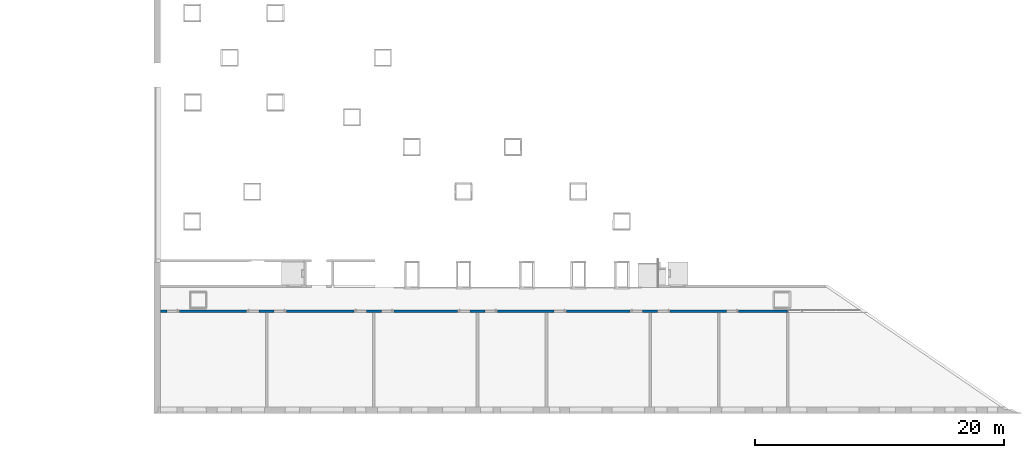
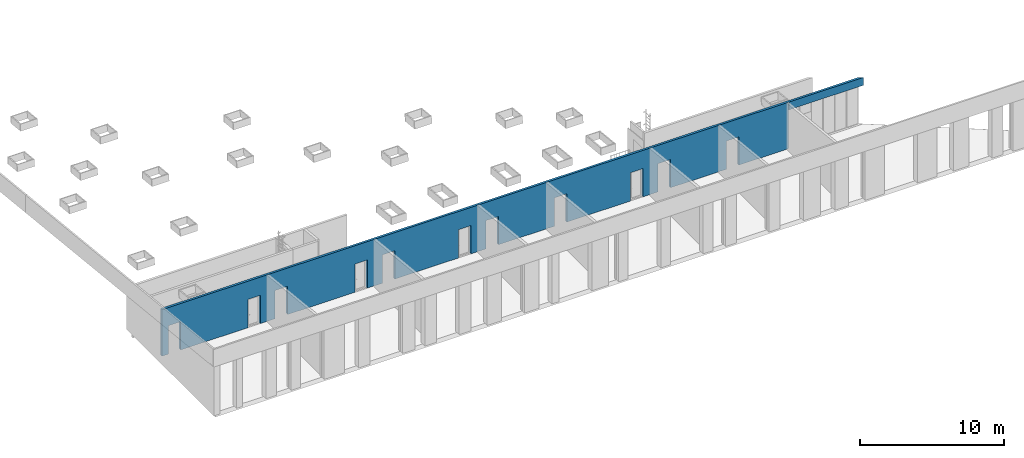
# One storey, part 7 of 23: 1 wall, 12 openings.
"""IFC2X3 building model written with IfcOpenShell, lengths in millimetres."""

import ifcopenshell
import ifcopenshell.guid

model = None  # the IFC model being written
_history = None  # IfcOwnerHistory: only IFC2X3 demands one
_inside = {}  # id of a spatial element -> (the spatial element, [elements in it])
_under = {}  # id of a project, library or spatial element -> (it, [spatial elements below it])
_declared = {}  # id of a project -> (the project, [libraries it declares])
_typed = {}  # id of a type object -> (the type object, [elements of that type])
_made_of = {}  # id of a material, layer set ... -> (it, [elements and type objects made of it])


def new_model(schema):
    """Start an empty IFC model of exactly this schema.

    Asked for "IFC4X3", IfcOpenShell would pick the latest addendum, in which some entities
    have other attributes; the version numbers below select the first issue.
    IFC2X3 requires an IfcOwnerHistory on every rooted entity: one is made here for all.
    """
    global model, _history
    if schema == "IFC4X3":
        model = ifcopenshell.file(schema_version=(4, 3, 0, 0))
    else:
        model = ifcopenshell.file(schema=schema)
    _inside.clear()
    _under.clear()
    _declared.clear()
    _typed.clear()
    _made_of.clear()
    _history = None
    if model.schema == "IFC2X3":
        org = make("IfcOrganization", Name="unknown")
        user = make(
            "IfcPersonAndOrganization",
            ThePerson=make("IfcPerson", FamilyName="unknown"),
            TheOrganization=org,
        )
        app = make(
            "IfcApplication",
            ApplicationDeveloper=org,
            Version="unknown",
            ApplicationFullName="unknown",
            ApplicationIdentifier="unknown",
        )
        _history = make(
            "IfcOwnerHistory",
            OwningUser=user,
            OwningApplication=app,
            ChangeAction="ADDED",
            CreationDate=0,
        )
    return model


def make(cls, **values):
    """One entity of the class cls with the attributes given. An attribute that is None is left unset."""
    return model.create_entity(
        cls, **{name: value for name, value in values.items() if value is not None}
    )


def entity(cls, *values):
    """Any entity or typed value of the class cls, its attributes in the order of the schema. None: left unset."""
    e = model.create_entity(cls)
    for i, value in enumerate(values):
        if value is not None:
            e[i] = value
    return e


def rooted(cls, **values):
    """An entity with a GlobalId (a new one), such as an element, a storey or a relation."""
    return make(cls, GlobalId=ifcopenshell.guid.new(), OwnerHistory=_history, **values)


def si_unit(unit_type, name, prefix=None):
    """IfcSIUnit, for example si_unit("LENGTHUNIT", "METRE", prefix="MILLI")."""
    return make("IfcSIUnit", UnitType=unit_type, Prefix=prefix, Name=name)


def converted_unit(unit_type, name, factor, base, dimensions=None, offset=None):
    """IfcConversionBasedUnit, such as the inch: factor (a typed value) times the base unit."""
    return make(
        "IfcConversionBasedUnit"
        if offset is None
        else "IfcConversionBasedUnitWithOffset",
        ConversionOffset=offset,
        Dimensions=None
        if dimensions is None
        else entity("IfcDimensionalExponents", *dimensions),
        UnitType=unit_type,
        Name=name,
        ConversionFactor=make(
            "IfcMeasureWithUnit", ValueComponent=factor, UnitComponent=base
        ),
    )


def derived_unit(unit_type, elements):
    """IfcDerivedUnit: a product of units, each with its exponent."""
    return make(
        "IfcDerivedUnit",
        Elements=[
            make("IfcDerivedUnitElement", Unit=unit, Exponent=power)
            for unit, power in elements
        ],
        UnitType=unit_type,
    )


def money_unit(currency):
    """IfcMonetaryUnit."""
    return make("IfcMonetaryUnit", Currency=currency)


def assignment(units):
    """IfcUnitAssignment: the units of a project."""
    return None if units is None else make("IfcUnitAssignment", Units=units)


def point(xyz):
    """IfcCartesianPoint."""
    return None if xyz is None else make("IfcCartesianPoint", Coordinates=xyz)


def direction(xyz):
    """IfcDirection."""
    return None if xyz is None else make("IfcDirection", DirectionRatios=xyz)


def frame(location, z_axis=None, x_axis=None):
    """IfcAxis2Placement3D, a coordinate frame: its origin and axes. An axis left out is left unset."""
    return make(
        "IfcAxis2Placement3D",
        Location=point(location),
        Axis=direction(z_axis),
        RefDirection=direction(x_axis),
    )


def origin_with_axes():
    """The frame at (0, 0, 0) with the z axis (0, 0, 1) and the x axis (1, 0, 0) written out."""
    return frame((0.0, 0.0, 0.0), z_axis=(0.0, 0.0, 1.0), x_axis=(1.0, 0.0, 0.0))


def place(relative_to, where):
    """IfcLocalPlacement: puts the frame where relative to a parent placement (None: the world)."""
    return make(
        "IfcLocalPlacement", PlacementRelTo=relative_to, RelativePlacement=where
    )


def context(
    kind, dimensions, precision=None, world=None, true_north=None, identifier=None
):
    """IfcGeometricRepresentationContext, for example the 3D "Model" context."""
    return make(
        "IfcGeometricRepresentationContext",
        ContextIdentifier=identifier,
        ContextType=kind,
        CoordinateSpaceDimension=dimensions,
        Precision=precision,
        WorldCoordinateSystem=world,
        TrueNorth=true_north,
    )


def subcontext(parent, identifier, kind, view, scale=None):
    """IfcGeometricRepresentationSubContext, for example "Body" below "Model"."""
    return make(
        "IfcGeometricRepresentationSubContext",
        ContextIdentifier=identifier,
        ContextType=kind,
        ParentContext=parent,
        TargetScale=scale,
        TargetView=view,
    )


def project(units=None, contexts=None):
    """IfcProject with its units and contexts."""
    return rooted(
        "IfcProject",
        Name="project",
        RepresentationContexts=contexts,
        UnitsInContext=assignment(units),
    )


def spatial(cls, under=None, at=None, **own):
    """A site, building, storey or space (cls), placed at a placement, below another one or the project."""
    s = rooted(cls, ObjectPlacement=at, **own)
    if under is not None:
        _under.setdefault(under.id(), (under, []))[1].append(s)
    return s


def faces_of(points, faces, orient=None, outer=None):
    """IfcFace entities. A face is a list of loops; a loop is a list of indices into points, from 0.

    orient and outer hold one flag for each loop. By default every Orientation is true, the
    first loop of a face is its IfcFaceOuterBound and the others are IfcFaceBound.
    """
    made = []
    for i, loops in enumerate(faces):
        bounds = []
        for j, loop in enumerate(loops):
            is_outer = j == 0 if outer is None else outer[i][j]
            bounds.append(
                make(
                    "IfcFaceOuterBound" if is_outer else "IfcFaceBound",
                    Bound=make("IfcPolyLoop", Polygon=[points[k] for k in loop]),
                    Orientation=True if orient is None else orient[i][j],
                )
            )
        made.append(make("IfcFace", Bounds=bounds))
    return made


def faceted_brep(points, faces, orient=None, outer=None, voids=None):
    """IfcFacetedBrep: a solid bounded by flat faces; with voids (closed shells), ...WithVoids."""
    shared = [point(p) for p in points]
    hull = make("IfcClosedShell", CfsFaces=faces_of(shared, faces, orient, outer))
    if voids is None:
        return make("IfcFacetedBrep", Outer=hull)
    return make(
        "IfcFacetedBrepWithVoids",
        Outer=hull,
        Voids=[
            make(cls, CfsFaces=faces_of(shared, fs, o, b)) for cls, fs, o, b in voids
        ],
    )


def shape(context_of_items, identifier, shape_type, items):
    """IfcShapeRepresentation: the items that make up one representation, for example the "Body"."""
    return make(
        "IfcShapeRepresentation",
        ContextOfItems=context_of_items,
        RepresentationIdentifier=identifier,
        RepresentationType=shape_type,
        Items=items,
    )


def material(Name=None, Category=None):
    """IfcMaterial."""
    return make("IfcMaterial", Name=Name, Category=Category)


def material_list(materials):
    """IfcMaterialList."""
    return make("IfcMaterialList", Materials=materials)


def made_of(thing, what):
    """Note that an element or type object is made of a material, layer set ...; save() writes the relation."""
    if what is not None:
        _made_of.setdefault(what.id(), (what, []))[1].append(thing)
    return thing


def type_object(cls, material=None, **own):
    """A type object (cls), such as IfcWallType, which elements share."""
    return made_of(rooted(cls, **own), material)


def element(
    cls,
    number,
    at=None,
    inside=None,
    cuts=None,
    type_object=None,
    material=None,
    context=None,
    identifier="Body",
    shape_type=None,
    held_by="IfcProductDefinitionShape",
    body=None,
    shapes=None,
    **own,
):
    """One element of the class cls, such as IfcWall. Its Tag is "e" and its number.

    at: its placement. inside: the storey or other place that contains it. cuts: it is an
    opening in that element (IfcRelVoidsElement). A single representation is given by context,
    identifier, shape_type and body (its items); several are given by shapes. held_by: the class
    of the entity that holds the representations. save() writes the other relations.
    """
    e = rooted(cls, Tag="e%d" % number, ObjectPlacement=at, **own)
    if body is not None:
        shapes = [shape(context, identifier, shape_type, body)]
    if shapes is not None:
        e.Representation = make(held_by, Representations=shapes)
    if inside is not None:
        _inside.setdefault(inside.id(), (inside, []))[1].append(e)
    if cuts is not None:
        rooted(
            "IfcRelVoidsElement", RelatingBuildingElement=cuts, RelatedOpeningElement=e
        )
    if type_object is not None:
        _typed.setdefault(type_object.id(), (type_object, []))[1].append(e)
    return made_of(e, material)


def aggregate(whole, parts):
    """IfcRelAggregates: a whole, such as a stair, and the parts it consists of."""
    return rooted("IfcRelAggregates", RelatingObject=whole, RelatedObjects=parts)


def save(model, path):
    """Write the relations noted so far, then the file.

    IfcRelAggregates (storeys below a building ...), IfcRelContainedInSpatialStructure (elements
    in a storey), IfcRelDefinesByType, IfcRelAssociatesMaterial and IfcRelDeclares: one each for
    every whole, place, type object, material and project.
    """
    for whole, parts in _under.values():
        aggregate(whole, parts)
    for where, things in _inside.values():
        rooted(
            "IfcRelContainedInSpatialStructure",
            RelatedElements=things,
            RelatingStructure=where,
        )
    for kind, things in _typed.values():
        rooted("IfcRelDefinesByType", RelatedObjects=things, RelatingType=kind)
    for what, things in _made_of.values():
        rooted("IfcRelAssociatesMaterial", RelatedObjects=things, RelatingMaterial=what)
    for by, libraries in _declared.values():
        rooted("IfcRelDeclares", RelatingContext=by, RelatedDefinitions=libraries)
    model.write(path)


model = new_model("IFC2X3")

# Units and contexts
model_context = context("Model", 3, precision=0.01, world=origin_with_axes(), true_north=direction((0.0, 1.0)))
body_context = subcontext(model_context, "Body", "Model", "MODEL_VIEW")
ifc_project = project(units=[si_unit("LENGTHUNIT", "METRE", prefix="MILLI"), si_unit("AREAUNIT", "SQUARE_METRE"), si_unit("VOLUMEUNIT", "CUBIC_METRE"), converted_unit("PLANEANGLEUNIT", "DEGREE", entity("IfcPlaneAngleMeasure", 0.0174532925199), si_unit("PLANEANGLEUNIT", "RADIAN"), dimensions=[0, 0, 0, 0, 0, 0, 0]), si_unit("SOLIDANGLEUNIT", "STERADIAN"), money_unit("EUR"), converted_unit("TIMEUNIT", "Year", entity("IfcTimeMeasure", 31556926.0), si_unit("TIMEUNIT", "SECOND"), dimensions=[0, 0, 1, 0, 0, 0, 0]), si_unit("MASSUNIT", "GRAM", prefix="KILO"), si_unit("THERMODYNAMICTEMPERATUREUNIT", "DEGREE_CELSIUS"), si_unit("LUMINOUSINTENSITYUNIT", "LUMEN"), si_unit("ENERGYUNIT", "JOULE", prefix="MEGA"), derived_unit("THERMALCONDUCTANCEUNIT", [(si_unit("POWERUNIT", "WATT"), 1), (si_unit("LENGTHUNIT", "METRE"), -1), (si_unit("THERMODYNAMICTEMPERATUREUNIT", "KELVIN"), -1)]), derived_unit("SPECIFICHEATCAPACITYUNIT", [(si_unit("ENERGYUNIT", "JOULE"), 1), (si_unit("MASSUNIT", "GRAM", prefix="KILO"), -1), (si_unit("THERMODYNAMICTEMPERATUREUNIT", "KELVIN"), -1)]), derived_unit("MASSDENSITYUNIT", [(si_unit("MASSUNIT", "GRAM", prefix="KILO"), 1), (si_unit("VOLUMEUNIT", "CUBIC_METRE"), -1)])], contexts=[model_context])

# Site, building, storey
site_placement = place(None, origin_with_axes())
site = spatial("IfcSite", under=ifc_project, at=site_placement, Name="L.Koidula tn 11b", CompositionType="ELEMENT")
building_placement = place(site_placement, origin_with_axes())
building = spatial("IfcBuilding", under=site, at=building_placement, Name="Rakvere Riigigümnaasium", CompositionType="ELEMENT")
storey_placement = place(building_placement, frame((0.0, 0.0, 7440.0), z_axis=(0.0, 0.0, 1.0), x_axis=(1.0, 0.0, 0.0)))
storey = spatial("IfcBuildingStorey", under=building, at=storey_placement, Name="3.korrus +7,44", CompositionType="ELEMENT", Elevation=7440.0)

# Wall, openings
ifc_material_1 = material(Name="siseviimistlus-seinad")
ifc_material_2 = material(Name="Betoon element / plaat")
ifc_material_list = material_list([ifc_material_1, ifc_material_2])
wall_type = type_object("IfcWallType", Name="SS-01-1 210", PredefinedType="NOTDEFINED")
wall_placement = place(storey_placement, frame((91551.1827146, 13280.4543717, 0.0), z_axis=(0.0, 0.0, 1.0), x_axis=(-1.0, 0.0, 0.0)))
wall = element("IfcWall", 1, at=wall_placement, inside=storey, type_object=wall_type, material=ifc_material_list, Name="Sisesein", context=body_context, shape_type="Brep", body=[
    faceted_brep([(56051.1826624, 200.0, 3950.00943243), (47641.1827121, 200.0, 3949.88177236), (47641.1827121, 200.0, 0.0), (48141.1827171, 200.0, 0.0), (48141.1827171, 200.0, 2400.0), (49141.1827171, 200.0, 2400.0), (49141.1827171, 200.0, 0.0), (54551.1827187, 200.0, 0.0), (54551.1827187, 200.0, 2400.0), (55551.1827187, 200.0, 2400.0), (55551.1827187, 200.0, 0.0), (56051.1826624, 200.0, 0.0), (47641.1827121, 210.0, 3950.93281471), (56051.1826624, 210.0, 3951.06047477), (47641.1827121, 210.0, 0.0), (48141.1827171, 210.0, 0.0), (48141.1827171, 210.0, 2400.0), (49141.1827171, 210.0, 2400.0), (49141.1827171, 210.0, 0.0), (54551.1827187, 210.0, 0.0), (54551.1827187, 210.0, 2400.0), (55551.1827187, 210.0, 2400.0), (55551.1827187, 210.0, 0.0), (56051.1826624, 210.0, 0.0)], [[[0, 1, 2, 3, 4, 5, 6, 7, 8, 9, 10, 11]], [[12, 1, 0, 13]], [[1, 12, 14, 2]], [[14, 15, 3, 2]], [[16, 4, 3, 15]], [[17, 5, 4, 16]], [[18, 6, 5, 17]], [[7, 6, 18, 19]], [[8, 7, 19, 20]], [[9, 8, 20, 21]], [[10, 9, 21, 22]], [[10, 22, 23, 11]], [[13, 0, 11, 23]], [[12, 13, 23, 22, 21, 20, 19, 18, 17, 16, 15, 14]]]),
    faceted_brep([(47461.1827121, 200.0, 3949.87904004), (39051.1827174, 200.0, 3949.75137998), (39051.1827174, 200.0, 0.0), (39551.1827168, 200.0, 0.0), (39551.1827168, 200.0, 2400.0), (40551.1827168, 200.0, 2400.0), (40551.1827168, 200.0, 0.0), (45961.1827166, 200.0, 0.0), (45961.1827166, 200.0, 2400.0), (46961.1827166, 200.0, 2400.0), (46961.1827166, 200.0, 0.0), (47461.1827121, 200.0, 0.0), (39051.1827174, 210.0, 3950.80242232), (47461.1827121, 210.0, 3950.93008239), (39051.1827174, 210.0, 0.0), (39551.1827168, 210.0, 0.0), (39551.1827168, 210.0, 2400.0), (40551.1827168, 210.0, 2400.0), (40551.1827168, 210.0, 0.0), (45961.1827166, 210.0, 0.0), (45961.1827166, 210.0, 2400.0), (46961.1827166, 210.0, 2400.0), (46961.1827166, 210.0, 0.0), (47461.1827121, 210.0, 0.0)], [[[0, 1, 2, 3, 4, 5, 6, 7, 8, 9, 10, 11]], [[12, 1, 0, 13]], [[1, 12, 14, 2]], [[15, 3, 2, 14]], [[4, 3, 15, 16]], [[5, 4, 16, 17]], [[6, 5, 17, 18]], [[18, 19, 7, 6]], [[20, 8, 7, 19]], [[21, 9, 8, 20]], [[22, 10, 9, 21]], [[11, 10, 22, 23]], [[13, 0, 11, 23]], [[12, 13, 23, 22, 21, 20, 19, 18, 17, 16, 15, 14]]]),
    faceted_brep([(38851.1827174, 200.0, 3949.74834407), (30731.1664229, 200.0, 3949.62508582), (30731.1664229, 200.0, 0.0), (31231.1664229, 200.0, 0.0), (31231.1664229, 200.0, 2400.0), (32231.1664229, 200.0, 2400.0), (32231.1664229, 200.0, 0.0), (37351.182665, 200.0, 0.0), (37351.182665, 200.0, 2400.0), (38351.182665, 200.0, 2400.0), (38351.182665, 200.0, 0.0), (38851.1827174, 200.0, 0.0), (30731.1664229, 210.0, 3950.67612816), (38851.1827174, 210.0, 3950.79938641), (30731.1664229, 210.0, 0.0), (31231.1664229, 210.0, 0.0), (31231.1664229, 210.0, 2400.0), (32231.1664229, 210.0, 2400.0), (32231.1664229, 210.0, 0.0), (37351.182665, 210.0, 0.0), (37351.182665, 210.0, 2400.0), (38351.182665, 210.0, 2400.0), (38351.182665, 210.0, 0.0), (38851.1827174, 210.0, 0.0)], [[[0, 1, 2, 3, 4, 5, 6, 7, 8, 9, 10, 11]], [[12, 1, 0, 13]], [[1, 12, 14, 2]], [[14, 15, 3, 2]], [[16, 4, 3, 15]], [[17, 5, 4, 16]], [[18, 6, 5, 17]], [[7, 6, 18, 19]], [[8, 7, 19, 20]], [[9, 8, 20, 21]], [[10, 9, 21, 22]], [[10, 22, 23, 11]], [[13, 0, 11, 23]], [[12, 13, 23, 22, 21, 20, 19, 18, 17, 16, 15, 14]]]),
    faceted_brep([(30531.1664229, 200.0, 3949.62204991), (25211.1677819, 200.0, 3949.54129469), (25211.1677819, 200.0, 0.0), (29031.1826652, 200.0, 0.0), (29031.1826652, 200.0, 2400.0), (30031.1826652, 200.0, 2400.0), (30031.1826652, 200.0, 0.0), (30531.1664229, 200.0, 0.0), (25211.1677819, 210.0, 3950.59233704), (30531.1664229, 210.0, 3950.67309225), (25211.1677819, 210.0, 0.0), (29031.1826652, 210.0, 0.0), (29031.1826652, 210.0, 2400.0), (30031.1826652, 210.0, 2400.0), (30031.1826652, 210.0, 0.0), (30531.1664229, 210.0, 0.0)], [[[0, 1, 2, 3, 4, 5, 6, 7]], [[8, 1, 0, 9]], [[1, 8, 10, 2]], [[10, 11, 3, 2]], [[12, 4, 3, 11]], [[13, 5, 4, 12]], [[14, 6, 5, 13]], [[7, 6, 14, 15]], [[9, 0, 7, 15]], [[8, 9, 15, 14, 13, 12, 11, 10]]]),
    faceted_brep([(25011.1677819, 200.0, 3949.53825878), (16891.1676255, 200.0, 3949.41500078), (16891.1676255, 200.0, 0.0), (17391.1676254, 200.0, 0.0), (17391.1676254, 200.0, 2400.0), (18391.1676254, 200.0, 2400.0), (18391.1676254, 200.0, 0.0), (23511.1677818, 200.0, 0.0), (23511.1677818, 200.0, 2400.0), (24511.1677818, 200.0, 2400.0), (24511.1677818, 200.0, 0.0), (25011.1677819, 200.0, 0.0), (16891.1676255, 210.0, 3950.46604313), (25011.1677819, 210.0, 3950.58930112), (16891.1676255, 210.0, 0.0), (17391.1676254, 210.0, 0.0), (17391.1676254, 210.0, 2400.0), (18391.1676254, 210.0, 2400.0), (18391.1676254, 210.0, 0.0), (23511.1677818, 210.0, 0.0), (23511.1677818, 210.0, 2400.0), (24511.1677818, 210.0, 2400.0), (24511.1677818, 210.0, 0.0), (25011.1677819, 210.0, 0.0)], [[[0, 1, 2, 3, 4, 5, 6, 7, 8, 9, 10, 11]], [[12, 1, 0, 13]], [[1, 12, 14, 2]], [[15, 3, 2, 14]], [[4, 3, 15, 16]], [[5, 4, 16, 17]], [[6, 5, 17, 18]], [[18, 19, 7, 6]], [[20, 8, 7, 19]], [[21, 9, 8, 20]], [[22, 10, 9, 21]], [[11, 10, 22, 23]], [[13, 0, 11, 23]], [[12, 13, 23, 22, 21, 20, 19, 18, 17, 16, 15, 14]]]),
    faceted_brep([(16691.1676255, 200.0, 3949.41196487), (11371.1384011, 200.0, 3949.33120919), (11371.1384011, 200.0, 0.0), (15191.1826667, 200.0, 0.0), (15191.1826667, 200.0, 2400.0), (16191.1826667, 200.0, 2400.0), (16191.1826667, 200.0, 0.0), (16691.1676255, 200.0, 0.0), (11371.1384011, 210.0, 3950.38225153), (16691.1676255, 210.0, 3950.46300721), (11371.1384011, 210.0, 0.0), (15191.1826667, 210.0, 0.0), (15191.1826667, 210.0, 2400.0), (16191.1826667, 210.0, 2400.0), (16191.1826667, 210.0, 0.0), (16691.1676255, 210.0, 0.0)], [[[0, 1, 2, 3, 4, 5, 6, 7]], [[8, 1, 0, 9]], [[1, 8, 10, 2]], [[10, 11, 3, 2]], [[12, 4, 3, 11]], [[13, 5, 4, 12]], [[14, 6, 5, 13]], [[7, 6, 14, 15]], [[9, 0, 7, 15]], [[8, 9, 15, 14, 13, 12, 11, 10]]]),
    faceted_brep([(11191.1384011, 200.0, 3949.32847687), (5871.1827149, 200.0, 3949.2477223), (5871.1827149, 200.0, 0.0), (9691.18266704, 200.0, 0.0), (9691.18266704, 200.0, 2400.0), (10691.182667, 200.0, 2400.0), (10691.182667, 200.0, 0.0), (11191.1384011, 200.0, 0.0), (5871.1827149, 210.0, 3950.29876465), (11191.1384011, 210.0, 3950.37951921), (5871.1827149, 210.0, 0.0), (9691.18266704, 210.0, 0.0), (9691.18266704, 210.0, 2400.0), (10691.182667, 210.0, 2400.0), (10691.182667, 210.0, 0.0), (11191.1384011, 210.0, 0.0)], [[[0, 1, 2, 3, 4, 5, 6, 7]], [[8, 1, 0, 9]], [[1, 8, 10, 2]], [[10, 11, 3, 2]], [[12, 4, 3, 11]], [[13, 5, 4, 12]], [[14, 6, 5, 13]], [[7, 6, 14, 15]], [[9, 0, 7, 15]], [[8, 9, 15, 14, 13, 12, 11, 10]]]),
    faceted_brep([(-291.597474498, 200.0, 3949.15417404), (-306.177317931, 210.0, 3950.20499506), (-306.177317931, 210.0, 3285.0), (-291.597474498, 200.0, 3285.0), (5691.1827149, 210.0, 3950.29603233), (5691.1827149, 200.0, 3949.24498998), (5691.1827149, 210.0, 3285.0), (5691.1827149, 200.0, 3285.0)], [[[0, 1, 2, 3]], [[4, 1, 0, 5]], [[1, 4, 6, 2]], [[7, 3, 2, 6]], [[5, 0, 3, 7]], [[4, 5, 7, 6]]]),
    faceted_brep([(0.00117493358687, 0.0, 3928.13775354), (-291.597474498, 200.0, 3949.15417404), (-291.597474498, 200.0, 3285.0), (0.00317767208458, 0.0, 3285.0), (56051.1826624, 200.0, 3950.00943243), (56051.1826624, 0.0, 3928.9885856), (56051.1826624, 200.0, 0.0), (55551.1827187, 200.0, 0.0), (55551.1827187, 200.0, 2400.0), (54551.1827187, 200.0, 2400.0), (54551.1827187, 200.0, 0.0), (49141.1827171, 200.0, 0.0), (49141.1827171, 200.0, 2400.0), (48141.1827171, 200.0, 2400.0), (48141.1827171, 200.0, 0.0), (46961.1827166, 200.0, 0.0), (46961.1827166, 200.0, 2400.0), (45961.1827166, 200.0, 2400.0), (45961.1827166, 200.0, 0.0), (40551.1827168, 200.0, 0.0), (40551.1827168, 200.0, 2400.0), (39551.1827168, 200.0, 2400.0), (39551.1827168, 200.0, 0.0), (38351.182665, 200.0, 0.0), (38351.182665, 200.0, 2400.0), (37351.182665, 200.0, 2400.0), (37351.182665, 200.0, 0.0), (32231.1664229, 200.0, 0.0), (32231.1664229, 200.0, 2400.0), (31231.1664229, 200.0, 2400.0), (31231.1664229, 200.0, 0.0), (30031.1826652, 200.0, 0.0), (30031.1826652, 200.0, 2400.0), (29031.1826652, 200.0, 2400.0), (29031.1826652, 200.0, 0.0), (24511.1677818, 200.0, 0.0), (24511.1677818, 200.0, 2400.0), (23511.1677818, 200.0, 2400.0), (23511.1677818, 200.0, 0.0), (18391.1676254, 200.0, 0.0), (18391.1676254, 200.0, 2400.0), (17391.1676254, 200.0, 2400.0), (17391.1676254, 200.0, 0.0), (16191.1826667, 200.0, 0.0), (16191.1826667, 200.0, 2400.0), (15191.1826667, 200.0, 2400.0), (15191.1826667, 200.0, 0.0), (10691.182667, 200.0, 0.0), (10691.182667, 200.0, 2400.0), (9691.18266704, 200.0, 2400.0), (9691.18266704, 200.0, 0.0), (5691.1827149, 200.0, 0.0), (5691.1827149, 200.0, 3285.0), (5691.1827149, 0.0, 3285.0), (5691.1827149, 0.0, 0.0), (9691.18266704, 0.0, 0.0), (9691.18266704, 0.0, 2400.0), (10691.182667, 0.0, 2400.0), (10691.182667, 0.0, 0.0), (15191.1826667, 0.0, 0.0), (15191.1826667, 0.0, 2400.0), (16191.1826667, 0.0, 2400.0), (16191.1826667, 0.0, 0.0), (17391.1676254, 0.0, 0.0), (17391.1676254, 0.0, 2400.0), (18391.1676254, 0.0, 2400.0), (18391.1676254, 0.0, 0.0), (23511.1677818, 0.0, 0.0), (23511.1677818, 0.0, 2400.0), (24511.1677818, 0.0, 2400.0), (24511.1677818, 0.0, 0.0), (29031.1826652, 0.0, 0.0), (29031.1826652, 0.0, 2400.0), (30031.1826652, 0.0, 2400.0), (30031.1826652, 0.0, 0.0), (31231.1664229, 0.0, 0.0), (31231.1664229, 0.0, 2400.0), (32231.1664229, 0.0, 2400.0), (32231.1664229, 0.0, 0.0), (37351.182665, 0.0, 0.0), (37351.182665, 0.0, 2400.0), (38351.182665, 0.0, 2400.0), (38351.182665, 0.0, 0.0), (39551.1827168, 0.0, 0.0), (39551.1827168, 0.0, 2400.0), (40551.1827168, 0.0, 2400.0), (40551.1827168, 0.0, 0.0), (45961.1827166, 0.0, 0.0), (45961.1827166, 0.0, 2400.0), (46961.1827166, 0.0, 2400.0), (46961.1827166, 0.0, 0.0), (48141.1827171, 0.0, 0.0), (48141.1827171, 0.0, 2400.0), (49141.1827171, 0.0, 2400.0), (49141.1827171, 0.0, 0.0), (54551.1827187, 0.0, 0.0), (54551.1827187, 0.0, 2400.0), (55551.1827187, 0.0, 2400.0), (55551.1827187, 0.0, 0.0), (56051.1826624, 0.0, 0.0)], [[[0, 1, 2, 3]], [[4, 1, 0, 5]], [[1, 4, 6, 7, 8, 9, 10, 11, 12, 13, 14, 15, 16, 17, 18, 19, 20, 21, 22, 23, 24, 25, 26, 27, 28, 29, 30, 31, 32, 33, 34, 35, 36, 37, 38, 39, 40, 41, 42, 43, 44, 45, 46, 47, 48, 49, 50, 51, 52, 2]], [[53, 3, 2, 52]], [[5, 0, 3, 53, 54, 55, 56, 57, 58, 59, 60, 61, 62, 63, 64, 65, 66, 67, 68, 69, 70, 71, 72, 73, 74, 75, 76, 77, 78, 79, 80, 81, 82, 83, 84, 85, 86, 87, 88, 89, 90, 91, 92, 93, 94, 95, 96, 97, 98, 99]], [[4, 5, 99, 6]], [[99, 98, 7, 6]], [[7, 98, 97, 8]], [[8, 97, 96, 9]], [[9, 96, 95, 10]], [[10, 95, 94, 11]], [[12, 11, 94, 93]], [[13, 12, 93, 92]], [[14, 13, 92, 91]], [[90, 15, 14, 91]], [[90, 89, 16, 15]], [[89, 88, 17, 16]], [[88, 87, 18, 17]], [[18, 87, 86, 19]], [[85, 20, 19, 86]], [[84, 21, 20, 85]], [[83, 22, 21, 84]], [[83, 82, 23, 22]], [[23, 82, 81, 24]], [[24, 81, 80, 25]], [[25, 80, 79, 26]], [[26, 79, 78, 27]], [[28, 27, 78, 77]], [[29, 28, 77, 76]], [[30, 29, 76, 75]], [[31, 30, 75, 74]], [[73, 32, 31, 74]], [[72, 33, 32, 73]], [[71, 34, 33, 72]], [[71, 70, 35, 34]], [[35, 70, 69, 36]], [[36, 69, 68, 37]], [[37, 68, 67, 38]], [[39, 38, 67, 66]], [[66, 65, 40, 39]], [[65, 64, 41, 40]], [[64, 63, 42, 41]], [[42, 63, 62, 43]], [[44, 43, 62, 61]], [[45, 44, 61, 60]], [[46, 45, 60, 59]], [[47, 46, 59, 58]], [[57, 48, 47, 58]], [[56, 49, 48, 57]], [[55, 50, 49, 56]], [[54, 51, 50, 55]], [[54, 53, 52, 51]]]),
])
opening_1_placement = place(wall_placement, frame((55051.1827187, 0.0, 0.0), z_axis=(0.0, 0.0, 1.0), x_axis=(1.0, 0.0, 0.0)))
element("IfcOpeningElement", 2, at=opening_1_placement, cuts=wall, Name="SU-068", context=body_context, shape_type="Brep", body=[
    faceted_brep([(500.0, 210.0, 0.0), (500.0, 210.0, 2400.0), (500.0, -420.0, 2400.0), (500.0, -420.0, 0.0), (-500.0, 210.0, 0.0), (-500.0, 210.0, 2400.0), (-500.0, -420.0, 2400.0), (-500.0, -420.0, 0.0)], [[[0, 1, 2, 3]], [[0, 4, 5, 1]], [[1, 5, 6, 2]], [[3, 2, 6, 7]], [[4, 0, 3, 7]], [[5, 4, 7, 6]]]),
])
opening_2_placement = place(wall_placement, frame((48641.1827171, 0.0, 0.0), z_axis=(0.0, 0.0, 1.0), x_axis=(1.0, 0.0, 0.0)))
element("IfcOpeningElement", 3, at=opening_2_placement, cuts=wall, Name="SU-069", context=body_context, shape_type="Brep", body=[
    faceted_brep([(-500.0, -420.0, 0.0), (-500.0, -420.0, 2400.0), (-500.0, 210.0, 2400.0), (-500.0, 210.0, 0.0), (500.0, -420.0, 0.0), (500.0, -420.0, 2400.0), (500.0, 210.0, 2400.0), (500.0, 210.0, 0.0)], [[[0, 1, 2, 3]], [[0, 4, 5, 1]], [[1, 5, 6, 2]], [[3, 2, 6, 7]], [[4, 0, 3, 7]], [[5, 4, 7, 6]]]),
])
opening_3_placement = place(wall_placement, frame((40051.1827168, 0.0, 0.0), z_axis=(0.0, 0.0, 1.0), x_axis=(1.0, 0.0, 0.0)))
element("IfcOpeningElement", 4, at=opening_3_placement, cuts=wall, Name="SU-071", context=body_context, shape_type="Brep", body=[
    faceted_brep([(-500.0, -420.0, 0.0), (-500.0, -420.0, 2400.0), (-500.0, 210.0, 2400.0), (-500.0, 210.0, 0.0), (500.0, -420.0, 0.0), (500.0, -420.0, 2400.0), (500.0, 210.0, 2400.0), (500.0, 210.0, 0.0)], [[[0, 1, 2, 3]], [[0, 4, 5, 1]], [[1, 5, 6, 2]], [[3, 2, 6, 7]], [[4, 0, 3, 7]], [[5, 4, 7, 6]]]),
])
opening_4_placement = place(wall_placement, frame((46461.1827166, 0.0, 0.0), z_axis=(0.0, 0.0, 1.0), x_axis=(1.0, 0.0, 0.0)))
element("IfcOpeningElement", 5, at=opening_4_placement, cuts=wall, Name="SU-070", context=body_context, shape_type="Brep", body=[
    faceted_brep([(500.0, 210.0, 0.0), (500.0, 210.0, 2400.0), (500.0, -420.0, 2400.0), (500.0, -420.0, 0.0), (-500.0, 210.0, 0.0), (-500.0, 210.0, 2400.0), (-500.0, -420.0, 2400.0), (-500.0, -420.0, 0.0)], [[[0, 1, 2, 3]], [[0, 4, 5, 1]], [[1, 5, 6, 2]], [[3, 2, 6, 7]], [[4, 0, 3, 7]], [[5, 4, 7, 6]]]),
])
opening_5_placement = place(wall_placement, frame((37851.182665, 0.0, 0.0), z_axis=(0.0, 0.0, 1.0), x_axis=(1.0, 0.0, 0.0)))
element("IfcOpeningElement", 6, at=opening_5_placement, cuts=wall, Name="SU-072", context=body_context, shape_type="Brep", body=[
    faceted_brep([(500.0, 210.0, 0.0), (500.0, 210.0, 2400.0), (500.0, -420.0, 2400.0), (500.0, -420.0, 0.0), (-500.0, 210.0, 0.0), (-500.0, 210.0, 2400.0), (-500.0, -420.0, 2400.0), (-500.0, -420.0, 0.0)], [[[0, 1, 2, 3]], [[0, 4, 5, 1]], [[1, 5, 6, 2]], [[3, 2, 6, 7]], [[4, 0, 3, 7]], [[5, 4, 7, 6]]]),
])
opening_6_placement = place(wall_placement, frame((31731.1664229, 0.0, 0.0), z_axis=(0.0, 0.0, 1.0), x_axis=(1.0, 0.0, 0.0)))
element("IfcOpeningElement", 7, at=opening_6_placement, cuts=wall, Name="SU-073", context=body_context, shape_type="Brep", body=[
    faceted_brep([(-500.0, -420.0, 0.0), (-500.0, -420.0, 2400.0), (-500.0, 210.0, 2400.0), (-500.0, 210.0, 0.0), (500.0, -420.0, 0.0), (500.0, -420.0, 2400.0), (500.0, 210.0, 2400.0), (500.0, 210.0, 0.0)], [[[0, 1, 2, 3]], [[0, 4, 5, 1]], [[1, 5, 6, 2]], [[3, 2, 6, 7]], [[4, 0, 3, 7]], [[5, 4, 7, 6]]]),
])
opening_7_placement = place(wall_placement, frame((29531.1826652, 0.0, 0.0), z_axis=(0.0, 0.0, 1.0), x_axis=(1.0, 0.0, 0.0)))
element("IfcOpeningElement", 8, at=opening_7_placement, cuts=wall, Name="SU-074", context=body_context, shape_type="Brep", body=[
    faceted_brep([(500.0, 210.0, 0.0), (500.0, 210.0, 2400.0), (500.0, -420.0, 2400.0), (500.0, -420.0, 0.0), (-500.0, 210.0, 0.0), (-500.0, 210.0, 2400.0), (-500.0, -420.0, 2400.0), (-500.0, -420.0, 0.0)], [[[0, 1, 2, 3]], [[0, 4, 5, 1]], [[1, 5, 6, 2]], [[3, 2, 6, 7]], [[4, 0, 3, 7]], [[5, 4, 7, 6]]]),
])
opening_8_placement = place(wall_placement, frame((17891.1676254, 0.0, 0.0), z_axis=(0.0, 0.0, 1.0), x_axis=(1.0, 0.0, 0.0)))
element("IfcOpeningElement", 9, at=opening_8_placement, cuts=wall, Name="SU-076", context=body_context, shape_type="Brep", body=[
    faceted_brep([(-500.0, -420.0, 0.0), (-500.0, -420.0, 2400.0), (-500.0, 210.0, 2400.0), (-500.0, 210.0, 0.0), (500.0, -420.0, 0.0), (500.0, -420.0, 2400.0), (500.0, 210.0, 2400.0), (500.0, 210.0, 0.0)], [[[0, 1, 2, 3]], [[0, 4, 5, 1]], [[1, 5, 6, 2]], [[3, 2, 6, 7]], [[4, 0, 3, 7]], [[5, 4, 7, 6]]]),
])
opening_9_placement = place(wall_placement, frame((24011.1677818, 0.0, 0.0), z_axis=(0.0, 0.0, 1.0), x_axis=(1.0, 0.0, 0.0)))
element("IfcOpeningElement", 10, at=opening_9_placement, cuts=wall, Name="SU-075", context=body_context, shape_type="Brep", body=[
    faceted_brep([(500.0, 210.0, 0.0), (500.0, 210.0, 2400.0), (500.0, -420.0, 2400.0), (500.0, -420.0, 0.0), (-500.0, 210.0, 0.0), (-500.0, 210.0, 2400.0), (-500.0, -420.0, 2400.0), (-500.0, -420.0, 0.0)], [[[0, 1, 2, 3]], [[0, 4, 5, 1]], [[1, 5, 6, 2]], [[3, 2, 6, 7]], [[4, 0, 3, 7]], [[5, 4, 7, 6]]]),
])
opening_10_placement = place(wall_placement, frame((15691.1826667, 0.0, 0.0), z_axis=(0.0, 0.0, 1.0), x_axis=(1.0, 0.0, 0.0)))
element("IfcOpeningElement", 11, at=opening_10_placement, cuts=wall, Name="SU-077", context=body_context, shape_type="Brep", body=[
    faceted_brep([(500.0, 210.0, 0.0), (500.0, 210.0, 2400.0), (500.0, -420.0, 2400.0), (500.0, -420.0, 0.0), (-500.0, 210.0, 0.0), (-500.0, 210.0, 2400.0), (-500.0, -420.0, 2400.0), (-500.0, -420.0, 0.0)], [[[0, 1, 2, 3]], [[0, 4, 5, 1]], [[1, 5, 6, 2]], [[3, 2, 6, 7]], [[4, 0, 3, 7]], [[5, 4, 7, 6]]]),
])
opening_11_placement = place(wall_placement, frame((10191.182667, 0.0, 0.0), z_axis=(0.0, 0.0, 1.0), x_axis=(1.0, 0.0, 0.0)))
element("IfcOpeningElement", 12, at=opening_11_placement, cuts=wall, Name="SU-078", context=body_context, shape_type="Brep", body=[
    faceted_brep([(500.0, 210.0, 0.0), (500.0, 210.0, 2400.0), (500.0, -420.0, 2400.0), (500.0, -420.0, 0.0), (-500.0, 210.0, 0.0), (-500.0, 210.0, 2400.0), (-500.0, -420.0, 2400.0), (-500.0, -420.0, 0.0)], [[[0, 1, 2, 3]], [[0, 4, 5, 1]], [[1, 5, 6, 2]], [[3, 2, 6, 7]], [[4, 0, 3, 7]], [[5, 4, 7, 6]]]),
])
opening_12_placement = place(wall_placement, frame((2845.59294629, 0.0, 0.0), z_axis=(0.0, 0.0, 1.0), x_axis=(1.0, 0.0, 0.0)))
element("IfcOpeningElement", 13, at=opening_12_placement, cuts=wall, Name="ava", context=body_context, shape_type="Brep", body=[
    faceted_brep([(2845.58976861, 210.0, -0.0999999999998), (2845.58976861, 210.0, 3285.0), (2845.58976861, 0.0, 3285.0), (2845.58976861, 0.0, -0.0999999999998), (-2845.58976861, 210.0, -0.0999999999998), (-2845.58976861, 210.0, 3285.0), (-2845.58976861, 0.0, 3285.0), (-2845.58976861, 0.0, -0.0999999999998)], [[[0, 1, 2, 3]], [[0, 4, 5, 1]], [[1, 5, 6, 2]], [[3, 2, 6, 7]], [[4, 0, 3, 7]], [[5, 4, 7, 6]]]),
    faceted_brep([(3018.86360325, 118.643070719, -0.0999999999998), (3018.86360325, 118.643070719, 3285.0), (2845.58976861, 0.0, 3285.0), (2845.58976861, 0.0, -0.0999999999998), (-2672.31593398, 118.643070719, -0.0999999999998), (-2672.31593398, 118.643070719, 3285.0), (-2845.58976861, 0.0, 3285.0), (-2845.58976861, 0.0, -0.0999999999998)], [[[0, 1, 2, 3]], [[0, 4, 5, 1]], [[1, 5, 6, 2]], [[3, 2, 6, 7]], [[4, 0, 3, 7]], [[5, 4, 7, 6]]]),
    faceted_brep([(2845.58976861, 210.0, -0.0999999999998), (2845.58976861, 210.0, 3285.0), (2845.58976861, 0.0, 3285.0), (2845.58976861, 0.0, -0.0999999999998), (-2845.58976861, 210.0, -0.0999999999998), (-2845.58976861, 210.0, 3285.0), (-2845.58976861, 0.0, 3285.0), (-2845.58976861, 0.0, -0.0999999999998)], [[[0, 1, 2, 3]], [[0, 4, 5, 1]], [[1, 5, 6, 2]], [[3, 2, 6, 7]], [[4, 0, 3, 7]], [[5, 4, 7, 6]]]),
    faceted_brep([(3018.86360325, 118.643070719, -0.0999999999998), (3018.86360325, 118.643070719, 3285.0), (2845.58976861, 0.0, 3285.0), (2845.58976861, 0.0, -0.0999999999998), (-2672.31593398, 118.643070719, -0.0999999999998), (-2672.31593398, 118.643070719, 3285.0), (-2845.58976861, 0.0, 3285.0), (-2845.58976861, 0.0, -0.0999999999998)], [[[0, 1, 2, 3]], [[0, 4, 5, 1]], [[1, 5, 6, 2]], [[3, 2, 6, 7]], [[4, 0, 3, 7]], [[5, 4, 7, 6]]]),
])

save(model, "model.ifc")
